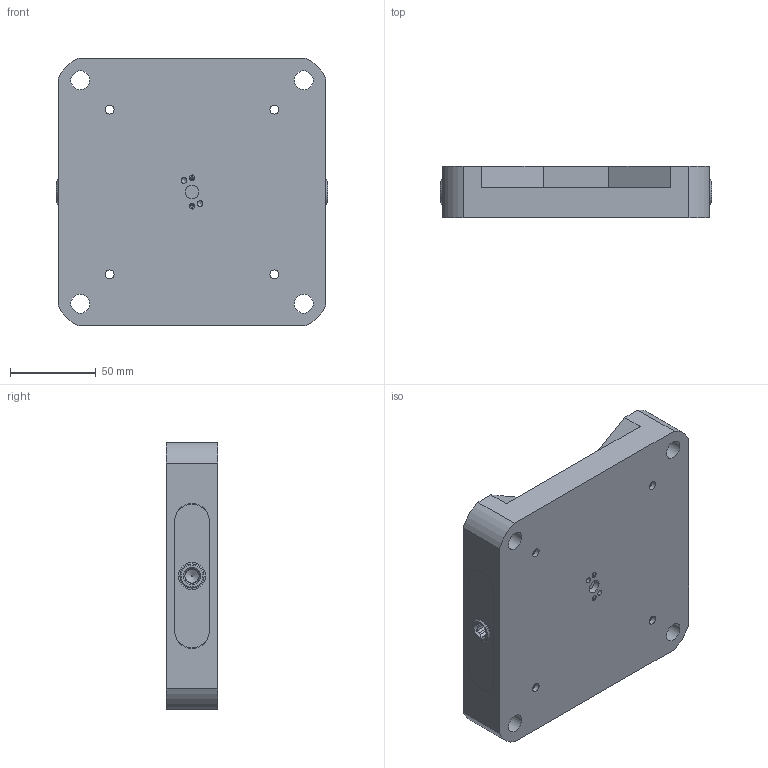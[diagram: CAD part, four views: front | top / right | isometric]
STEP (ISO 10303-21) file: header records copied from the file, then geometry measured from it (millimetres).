
FILE_DESCRIPTION (( 'STEP AP214' ), '1' );
FILE_NAME ('RL96S-6790_WEBSITE.STEP', '2025-08-11T11:26:46', ( '' ), ( '' ), 'SwSTEP 2.0', 'SolidWorks 2025', '' );
FILE_SCHEMA (( 'AUTOMOTIVE_DESIGN' ));
Length unit declared in the file: inch
Products named in the file (10): RL96S-6790_WEBSITE; D_RL96-2L_WEBSITE; 9452K183-Base-O-Ring_WEBSITE; D_RL96-2R_WEBSITE; 9452K121-Truck-O-Ring_WEBSITE; D_SB54_WEBSITE_FINISHED PART; D_RL96-3_WEBSITE; D_RL96-16790S_WEBSITE; D_HW27X20.DB_WEBSITE; 9750K730_PLASTIC ROUND PLUG_WEBSITE_9750K73
Assembly tree (16 placements, depth 2):
  RL96S-6790_WEBSITE
    D_RL96-16790S_WEBSITE
    D_HW27X20.DB_WEBSITE  x4
    D_RL96-2L_WEBSITE
    D_RL96-2R_WEBSITE
    D_RL96-3_WEBSITE
    D_SB54_WEBSITE_FINISHED PART  x2
    9452K183-Base-O-Ring_WEBSITE  x4
    9452K121-Truck-O-Ring_WEBSITE  x2
  9750K730_PLASTIC ROUND PLUG_WEBSITE_9750K73
Bounding box: 158 x 30 x 156 mm (x, y, z)
Volume: 596967.3 mm3; surface area: 132362.3 mm2
Topology: 18 solids, 18 shells, 358 faces, 828 edges, 525 vertices
Faces by surface type: plane 215, cylinder 97, cone 20, bspline 16, torus 10
Full cylindrical faces by diameter (mm): 0.127 x2, 2.5 x2, 3.3 x4, 4 x2, 4.7 x2, 5 x2, 5.182 x6, 8.016 x1, 8.204 x2, 9 x2, 9.525 x2, 10.795 x1, 11 x4, 12.192 x4, 12.573 x4, 14 x2, 15.748 x2, 17 x4, 19.05 x6, 19.99 x1, 20 x4, 20.035 x4, 26.977 x4, 26.993 x4, 27.051 x4
Entity records: 11968 total; most frequent: CARTESIAN_POINT 4638, DIRECTION 1399, ORIENTED_EDGE 1258, EDGE_CURVE 629, AXIS2_PLACEMENT_3D 525, EDGE_LOOP 461, VERTEX_POINT 446, FACE_OUTER_BOUND 375
